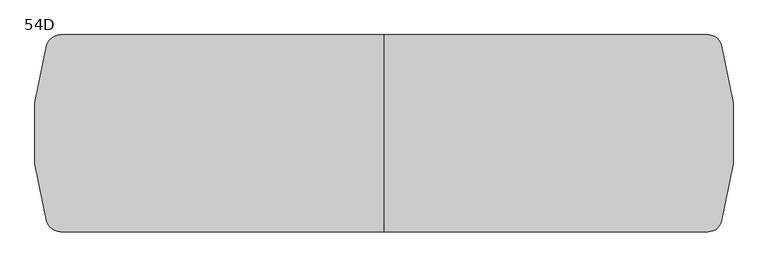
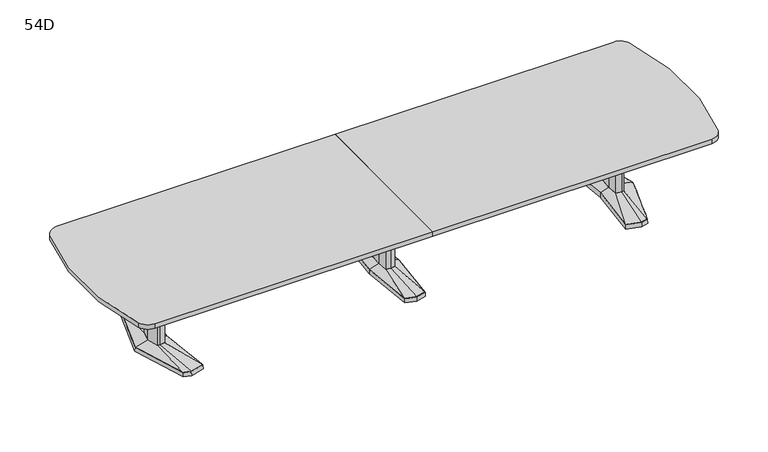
"""IFC4 building model written with IfcOpenShell, lengths in millimetres: furniture geometry, Coalesse_AM_Table_Conference_ETable2_SoftRadiused_16ft_AluminiumBase : 54D."""

import ifcopenshell
import ifcopenshell.guid

model = None  # the IFC model being written
_history = None  # IfcOwnerHistory: only IFC2X3 demands one
_inside = {}  # id of a spatial element -> (the spatial element, [elements in it])
_under = {}  # id of a project, library or spatial element -> (it, [spatial elements below it])
_declared = {}  # id of a project -> (the project, [libraries it declares])
_typed = {}  # id of a type object -> (the type object, [elements of that type])
_made_of = {}  # id of a material, layer set ... -> (it, [elements and type objects made of it])


def new_model(schema):
    """Start an empty IFC model of exactly this schema.

    Asked for "IFC4X3", IfcOpenShell would pick the latest addendum, in which some entities
    have other attributes; the version numbers below select the first issue.
    IFC2X3 requires an IfcOwnerHistory on every rooted entity: one is made here for all.
    """
    global model, _history
    if schema == "IFC4X3":
        model = ifcopenshell.file(schema_version=(4, 3, 0, 0))
    else:
        model = ifcopenshell.file(schema=schema)
    _inside.clear()
    _under.clear()
    _declared.clear()
    _typed.clear()
    _made_of.clear()
    _history = None
    if model.schema == "IFC2X3":
        org = make("IfcOrganization", Name="unknown")
        user = make(
            "IfcPersonAndOrganization",
            ThePerson=make("IfcPerson", FamilyName="unknown"),
            TheOrganization=org,
        )
        app = make(
            "IfcApplication",
            ApplicationDeveloper=org,
            Version="unknown",
            ApplicationFullName="unknown",
            ApplicationIdentifier="unknown",
        )
        _history = make(
            "IfcOwnerHistory",
            OwningUser=user,
            OwningApplication=app,
            ChangeAction="ADDED",
            CreationDate=0,
        )
    return model


def make(cls, **values):
    """One entity of the class cls with the attributes given. An attribute that is None is left unset."""
    return model.create_entity(
        cls, **{name: value for name, value in values.items() if value is not None}
    )


def rooted(cls, **values):
    """An entity with a GlobalId (a new one), such as an element, a storey or a relation."""
    return make(cls, GlobalId=ifcopenshell.guid.new(), OwnerHistory=_history, **values)


def si_unit(unit_type, name, prefix=None):
    """IfcSIUnit, for example si_unit("LENGTHUNIT", "METRE", prefix="MILLI")."""
    return make("IfcSIUnit", UnitType=unit_type, Prefix=prefix, Name=name)


def assignment(units):
    """IfcUnitAssignment: the units of a project."""
    return None if units is None else make("IfcUnitAssignment", Units=units)


def point(xyz):
    """IfcCartesianPoint."""
    return None if xyz is None else make("IfcCartesianPoint", Coordinates=xyz)


def direction(xyz):
    """IfcDirection."""
    return None if xyz is None else make("IfcDirection", DirectionRatios=xyz)


def frame(location, z_axis=None, x_axis=None):
    """IfcAxis2Placement3D, a coordinate frame: its origin and axes. An axis left out is left unset."""
    return make(
        "IfcAxis2Placement3D",
        Location=point(location),
        Axis=direction(z_axis),
        RefDirection=direction(x_axis),
    )


def frame_2d(location, x_axis=None):
    """IfcAxis2Placement2D, a coordinate frame in the plane: its origin and x axis."""
    return make(
        "IfcAxis2Placement2D", Location=point(location), RefDirection=direction(x_axis)
    )


def origin():
    """The frame at (0, 0, 0) with its axes left unset."""
    return frame((0.0, 0.0, 0.0))


def place(relative_to, where):
    """IfcLocalPlacement: puts the frame where relative to a parent placement (None: the world)."""
    return make(
        "IfcLocalPlacement", PlacementRelTo=relative_to, RelativePlacement=where
    )


def context(
    kind, dimensions, precision=None, world=None, true_north=None, identifier=None
):
    """IfcGeometricRepresentationContext, for example the 3D "Model" context."""
    return make(
        "IfcGeometricRepresentationContext",
        ContextIdentifier=identifier,
        ContextType=kind,
        CoordinateSpaceDimension=dimensions,
        Precision=precision,
        WorldCoordinateSystem=world,
        TrueNorth=true_north,
    )


def project(units=None, contexts=None):
    """IfcProject with its units and contexts."""
    return rooted(
        "IfcProject",
        Name="project",
        RepresentationContexts=contexts,
        UnitsInContext=assignment(units),
    )


def spatial(cls, under=None, at=None, **own):
    """A site, building, storey or space (cls), placed at a placement, below another one or the project."""
    s = rooted(cls, ObjectPlacement=at, **own)
    if under is not None:
        _under.setdefault(under.id(), (under, []))[1].append(s)
    return s


def polyline(points):
    """IfcPolyline through the points."""
    return make("IfcPolyline", Points=[point(p) for p in points])


def circle_curve(where, radius):
    """IfcCircle in the frame where."""
    return make("IfcCircle", Position=where, Radius=radius)


def trimmed(basis, trim1, trim2, sense, master):
    """IfcTrimmedCurve: the piece of a basis curve between two trims."""
    return make(
        "IfcTrimmedCurve",
        BasisCurve=basis,
        Trim1=trim1,
        Trim2=trim2,
        SenseAgreement=sense,
        MasterRepresentation=master,
    )


def segment(curve, same_sense, transition):
    """IfcCompositeCurveSegment."""
    return make(
        "IfcCompositeCurveSegment",
        Transition=transition,
        SameSense=same_sense,
        ParentCurve=curve,
    )


def composite_curve(segments, self_intersect=None):
    """IfcCompositeCurve: segments joined end to end."""
    return make("IfcCompositeCurve", Segments=segments, SelfIntersect=self_intersect)


def outline(outer, holes=None, kind="AREA"):
    """IfcArbitraryClosedProfileDef: a profile drawn as a closed curve; with holes, ...WithVoids."""
    if holes is None:
        return make("IfcArbitraryClosedProfileDef", ProfileType=kind, OuterCurve=outer)
    return make(
        "IfcArbitraryProfileDefWithVoids",
        ProfileType=kind,
        OuterCurve=outer,
        InnerCurves=holes,
    )


def extrude(swept, where, along, depth):
    """IfcExtrudedAreaSolid: the profile swept, set in the frame where, extruded along a direction by depth."""
    return make(
        "IfcExtrudedAreaSolid",
        SweptArea=swept,
        Position=where,
        ExtrudedDirection=direction(along),
        Depth=depth,
    )


def faces_of(points, faces, orient=None, outer=None):
    """IfcFace entities. A face is a list of loops; a loop is a list of indices into points, from 0.

    orient and outer hold one flag for each loop. By default every Orientation is true, the
    first loop of a face is its IfcFaceOuterBound and the others are IfcFaceBound.
    """
    made = []
    for i, loops in enumerate(faces):
        bounds = []
        for j, loop in enumerate(loops):
            is_outer = j == 0 if outer is None else outer[i][j]
            bounds.append(
                make(
                    "IfcFaceOuterBound" if is_outer else "IfcFaceBound",
                    Bound=make("IfcPolyLoop", Polygon=[points[k] for k in loop]),
                    Orientation=True if orient is None else orient[i][j],
                )
            )
        made.append(make("IfcFace", Bounds=bounds))
    return made


def faceted_brep(points, faces, orient=None, outer=None, voids=None):
    """IfcFacetedBrep: a solid bounded by flat faces; with voids (closed shells), ...WithVoids."""
    shared = [point(p) for p in points]
    hull = make("IfcClosedShell", CfsFaces=faces_of(shared, faces, orient, outer))
    if voids is None:
        return make("IfcFacetedBrep", Outer=hull)
    return make(
        "IfcFacetedBrepWithVoids",
        Outer=hull,
        Voids=[
            make(cls, CfsFaces=faces_of(shared, fs, o, b)) for cls, fs, o, b in voids
        ],
    )


def shape(context_of_items, identifier, shape_type, items):
    """IfcShapeRepresentation: the items that make up one representation, for example the "Body"."""
    return make(
        "IfcShapeRepresentation",
        ContextOfItems=context_of_items,
        RepresentationIdentifier=identifier,
        RepresentationType=shape_type,
        Items=items,
    )


def source(mapping_origin, context_of_items, identifier, shape_type, items):
    """IfcRepresentationMap: a shape defined once, which mapped items show again and again."""
    return make(
        "IfcRepresentationMap",
        MappingOrigin=mapping_origin,
        MappedRepresentation=shape(context_of_items, identifier, shape_type, items),
    )


def transform(
    local_origin,
    x_axis=None,
    y_axis=None,
    z_axis=None,
    scale=None,
    scale2=None,
    scale3=None,
    uniform=True,
):
    """IfcCartesianTransformationOperator3D, or its non-uniform kind. x_axis, y_axis, z_axis: its Axis1, 2, 3."""
    if uniform:
        return make(
            "IfcCartesianTransformationOperator3D",
            Axis1=direction(x_axis),
            Axis2=direction(y_axis),
            LocalOrigin=point(local_origin),
            Scale=scale,
            Axis3=direction(z_axis),
        )
    return make(
        "IfcCartesianTransformationOperator3DnonUniform",
        Axis1=direction(x_axis),
        Axis2=direction(y_axis),
        LocalOrigin=point(local_origin),
        Scale=scale,
        Axis3=direction(z_axis),
        Scale2=scale2,
        Scale3=scale3,
    )


def mapped(mapping_source, mapping_target):
    """IfcMappedItem: shows the shape of a source again, moved by a transform."""
    return make(
        "IfcMappedItem", MappingSource=mapping_source, MappingTarget=mapping_target
    )


def made_of(thing, what):
    """Note that an element or type object is made of a material, layer set ...; save() writes the relation."""
    if what is not None:
        _made_of.setdefault(what.id(), (what, []))[1].append(thing)
    return thing


def element(
    cls,
    number,
    at=None,
    inside=None,
    cuts=None,
    type_object=None,
    material=None,
    context=None,
    identifier="Body",
    shape_type=None,
    held_by="IfcProductDefinitionShape",
    body=None,
    shapes=None,
    **own,
):
    """One element of the class cls, such as IfcWall. Its Tag is "e" and its number.

    at: its placement. inside: the storey or other place that contains it. cuts: it is an
    opening in that element (IfcRelVoidsElement). A single representation is given by context,
    identifier, shape_type and body (its items); several are given by shapes. held_by: the class
    of the entity that holds the representations. save() writes the other relations.
    """
    e = rooted(cls, Tag="e%d" % number, ObjectPlacement=at, **own)
    if body is not None:
        shapes = [shape(context, identifier, shape_type, body)]
    if shapes is not None:
        e.Representation = make(held_by, Representations=shapes)
    if inside is not None:
        _inside.setdefault(inside.id(), (inside, []))[1].append(e)
    if cuts is not None:
        rooted(
            "IfcRelVoidsElement", RelatingBuildingElement=cuts, RelatedOpeningElement=e
        )
    if type_object is not None:
        _typed.setdefault(type_object.id(), (type_object, []))[1].append(e)
    return made_of(e, material)


def aggregate(whole, parts):
    """IfcRelAggregates: a whole, such as a stair, and the parts it consists of."""
    return rooted("IfcRelAggregates", RelatingObject=whole, RelatedObjects=parts)


def save(model, path):
    """Write the relations noted so far, then the file.

    IfcRelAggregates (storeys below a building ...), IfcRelContainedInSpatialStructure (elements
    in a storey), IfcRelDefinesByType, IfcRelAssociatesMaterial and IfcRelDeclares: one each for
    every whole, place, type object, material and project.
    """
    for whole, parts in _under.values():
        aggregate(whole, parts)
    for where, things in _inside.values():
        rooted(
            "IfcRelContainedInSpatialStructure",
            RelatedElements=things,
            RelatingStructure=where,
        )
    for kind, things in _typed.values():
        rooted("IfcRelDefinesByType", RelatedObjects=things, RelatingType=kind)
    for what, things in _made_of.values():
        rooted("IfcRelAssociatesMaterial", RelatedObjects=things, RelatingMaterial=what)
    for by, libraries in _declared.values():
        rooted("IfcRelDeclares", RelatingContext=by, RelatedDefinitions=libraries)
    model.write(path)


def plane_surface(at):
    """IfcPlane: the flat surface through the origin of the frame at, square to its z axis."""
    return make("IfcPlane", Position=at)


def spline_surface(u_degree, v_degree, points, u_multiplicities, v_multiplicities, u_knots, v_knots, weights=None):
    """IfcBSplineSurfaceWithKnots; with weights, IfcRationalBSplineSurfaceWithKnots. points: one row for each step in u."""
    own = dict(
        UDegree=u_degree,
        VDegree=v_degree,
        ControlPointsList=[[point(p) for p in row] for row in points],
        SurfaceForm="UNSPECIFIED",
        UClosed=False,
        VClosed=False,
        SelfIntersect=False,
        UMultiplicities=u_multiplicities,
        VMultiplicities=v_multiplicities,
        UKnots=u_knots,
        VKnots=v_knots,
        KnotSpec="UNSPECIFIED",
    )
    if weights is None:
        return make("IfcBSplineSurfaceWithKnots", **own)
    return make("IfcRationalBSplineSurfaceWithKnots", WeightsData=weights, **own)


def advanced_brep(points, edges, surfaces, faces):
    """IfcAdvancedBrep: a solid bounded by faces that lie on surfaces and meet in shared edges.

    An edge is (start, end): straight between two places in points (the first is 0);
    or (start, end, curve); or (start, end, curve, False) where it runs against its curve.
    A face is (place in surfaces, loops), or (place, loops, False) where it looks against
    its surface's normal. A loop lists edges by number (the first is 1), with a minus sign
    where the edge is run from its end to its start. The first loop is the outer one.
    """
    corners = [point(p) for p in points]
    vertices = [make("IfcVertexPoint", VertexGeometry=c) for c in corners]
    made = []
    for start, end, *more in edges:
        made.append(
            make(
                "IfcEdgeCurve",
                EdgeStart=vertices[start],
                EdgeEnd=vertices[end],
                EdgeGeometry=more[0] if more else make("IfcPolyline", Points=[corners[start], corners[end]]),
                SameSense=more[1] if len(more) > 1 else True,
            )
        )
    hull = []
    for where, loops, *sense in faces:
        bounds = []
        for j, loop in enumerate(loops):
            ring = [make("IfcOrientedEdge", EdgeElement=made[abs(k) - 1], Orientation=k > 0) for k in loop]
            bounds.append(
                make(
                    "IfcFaceOuterBound" if j == 0 else "IfcFaceBound",
                    Bound=make("IfcEdgeLoop", EdgeList=ring),
                    Orientation=True,
                )
            )
        hull.append(make("IfcAdvancedFace", Bounds=bounds, FaceSurface=surfaces[where], SameSense=sense[0] if sense else True))
    return make("IfcAdvancedBrep", Outer=make("IfcClosedShell", CfsFaces=hull))


def furniture_54d_b6bab012(model_context):
    return source(origin(), model_context, "Body", "SolidModel", [
        faceted_brep([(-81.2333791, -433.8053819, 38.1), (0.0, -455.556576, 38.1), (81.2333791, -433.8053819, 38.1), (119.0564774, 0.0, 38.1), (81.2333791, 433.8053819, 38.1), (0.0, 455.556576, 38.1), (-81.2333791, 433.8053819, 38.1), (-119.0564774, 0.0, 38.1), (-82.7182795, -435.0512063, 3.175), (-120.65, 0.0, 3.175), (-82.7182795, 435.0512063, 3.175), (0.0, 457.2, 3.175), (82.7182795, 435.0512063, 3.175), (120.65, 0.0, 3.175), (82.7182795, -435.0512063, 3.175), (0.0, -457.2, 3.175), (0.0, 429.2617927, 3.175), (-77.9676806, 408.3850278, 3.175), (-74.7019821, 382.9646737, 3.175), (0.0, 402.9670094, 3.175), (74.7019821, 382.9646737, 3.175), (77.9676806, 408.3850278, 3.175), (0.0, -429.2617927, 3.175), (77.9676806, -408.3850278, 3.175), (74.7019821, -382.9646737, 3.175), (0.0, -402.9670094, 3.175), (-74.7019821, -382.9646737, 3.175), (-77.9676806, -408.3850278, 3.175), (-71.8574262, 114.6326257, 3.175), (-82.5426076, 0.0, 3.175), (-71.8574262, -114.6326257, 3.175), (0.0, -133.8761372, 3.175), (71.8574262, -114.6326257, 3.175), (82.5426076, 0.0, 3.175), (71.8574262, 114.6326257, 3.175), (0.0, 133.8761372, 3.175), (0.0, 429.2617927, 0.0), (77.9676806, 408.3850278, 0.0), (74.7019821, 382.9646737, 0.0), (0.0, 402.9670094, 0.0), (-74.7019821, 382.9646737, 0.0), (-77.9676806, 408.3850278, 0.0), (0.0, -429.2617927, 0.0), (-77.9676806, -408.3850278, 0.0), (-74.7019821, -382.9646737, 0.0), (0.0, -402.9670094, 0.0), (74.7019821, -382.9646737, 0.0), (77.9676806, -408.3850278, 0.0), (-71.8574262, 114.6326257, 0.0), (0.0, 133.8761372, 0.0), (71.8574262, 114.6326257, 0.0), (82.5426076, 0.0, 0.0), (71.8574262, -114.6326257, 0.0), (0.0, -133.8761372, 0.0), (-71.8574262, -114.6326257, 0.0), (-82.5426076, 0.0, 0.0)], [[[0, 1, 2, 3, 4, 5, 6, 7]], [[8, 9, 10, 11, 12, 13, 14, 15], [16, 17, 18, 19, 20, 21], [22, 23, 24, 25, 26, 27], [28, 29, 30, 31, 32, 33, 34, 35]], [[1, 0, 8, 15]], [[2, 1, 15, 14]], [[3, 2, 14, 13]], [[4, 3, 13, 12]], [[5, 4, 12, 11]], [[6, 5, 11, 10]], [[7, 6, 10, 9]], [[0, 7, 9, 8]], [[36, 37, 38, 39, 40, 41]], [[42, 43, 44, 45, 46, 47]], [[48, 49, 50, 51, 52, 53, 54, 55]], [[36, 41, 17, 16]], [[41, 40, 18, 17]], [[40, 39, 19, 18]], [[39, 38, 20, 19]], [[38, 37, 21, 20]], [[37, 36, 16, 21]], [[42, 47, 23, 22]], [[47, 46, 24, 23]], [[46, 45, 25, 24]], [[45, 44, 26, 25]], [[44, 43, 27, 26]], [[43, 42, 22, 27]], [[48, 55, 29, 28]], [[55, 54, 30, 29]], [[54, 53, 31, 30]], [[53, 52, 32, 31]], [[52, 51, 33, 32]], [[51, 50, 34, 33]], [[50, 49, 35, 34]], [[49, 48, 28, 35]]]),
        faceted_brep([(-36.3832834, 84.6900825, 698.5), (-44.2774487, 0.0, 698.5), (-36.3832834, -84.6900825, 698.5), (0.0, -94.4335728, 698.5), (36.3832834, -84.6900825, 698.5), (44.2774487, 0.0, 698.5), (36.3832834, 84.6900825, 698.5), (0.0, 94.4335728, 698.5), (-36.3832834, 84.6900825, 63.5), (0.0, 94.4335728, 63.5), (36.3832834, 84.6900825, 63.5), (44.2774487, 0.0, 63.5), (36.3832834, -84.6900825, 63.5), (0.0, -94.4335728, 63.5), (-36.3832834, -84.6900825, 63.5), (-44.2774487, 0.0, 63.5)], [[[0, 1, 2, 3, 4, 5, 6, 7]], [[8, 9, 10, 11, 12, 13, 14, 15]], [[1, 0, 8, 15]], [[2, 1, 15, 14]], [[3, 2, 14, 13]], [[4, 3, 13, 12]], [[5, 4, 12, 11]], [[6, 5, 11, 10]], [[7, 6, 10, 9]], [[0, 7, 9, 8]]]),
        advanced_brep(
        [(-36.3832834, 84.6900825, 63.5), (-44.2774487, 0.0, 63.5), (-36.3832834, -84.6900825, 63.5), (0.0, -94.4335728, 63.5), (36.3832834, -84.6900825, 63.5), (44.2774487, 0.0, 63.5), (36.3832834, 84.6900825, 63.5), (0.0, 94.4335728, 63.5), (-81.2333791, 433.8053819, 38.1), (0.0, 455.556576, 38.1), (81.2333791, 433.8053819, 38.1), (119.0564774, 0.0, 38.1), (81.2333791, -433.8053819, 38.1), (0.0, -455.556576, 38.1), (-81.2333791, -433.8053819, 38.1), (-119.0564774, 0.0, 38.1)],
        [
            (0, 1),
            (1, 2),
            (2, 3),
            (3, 4),
            (4, 5),
            (5, 6),
            (6, 7),
            (7, 0),
            (8, 9),
            (9, 10),
            (10, 11),
            (11, 12),
            (12, 13),
            (13, 14),
            (14, 15),
            (15, 8),
            (15, 1),
            (0, 8),
            (14, 2),
            (13, 3),
            (12, 4),
            (11, 5),
            (10, 6),
            (9, 7),
        ],
        [
            plane_surface(frame((0.0, 0.0, 63.5), z_axis=(0.0, 0.0, 1.0000000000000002), x_axis=(-0.9659615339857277, -0.25868574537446, 0.0))),
            plane_surface(frame((0.0, 0.0, 38.1), z_axis=(0.0, 0.0, -1.0000000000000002), x_axis=(-0.9659615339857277, -0.25868574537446, 0.0))),
            spline_surface(1, 1, [[(-81.2333791, 433.8053819, 38.1), (-36.3832834, 84.6900825, 63.5)], [(-119.0564774, 0.0, 38.1), (-44.2774487, 0.0, 63.5)]], [2, 2], [2, 2], [0.0, 1.0], [0.0, 1.0]),
            spline_surface(1, 1, [[(-119.0564774, 0.0, 38.1), (-44.2774487, 0.0, 63.5)], [(-81.2333791, -433.8053819, 38.1), (-36.3832834, -84.6900825, 63.5)]], [2, 2], [2, 2], [0.0, 1.0], [0.0, 1.0]),
            spline_surface(1, 1, [[(-81.2333791, -433.8053819, 38.1), (-36.3832834, -84.6900825, 63.5)], [(0.0, -455.556576, 38.1), (0.0, -94.4335728, 63.5)]], [2, 2], [2, 2], [0.0, 1.0], [0.0, 1.0]),
            spline_surface(1, 1, [[(0.0, -455.556576, 38.1), (0.0, -94.4335728, 63.5)], [(81.2333791, -433.8053819, 38.1), (36.3832834, -84.6900825, 63.5)]], [2, 2], [2, 2], [0.0, 1.0], [0.0, 1.0]),
            spline_surface(1, 1, [[(81.2333791, -433.8053819, 38.1), (36.3832834, -84.6900825, 63.5)], [(119.0564774, 0.0, 38.1), (44.2774487, 0.0, 63.5)]], [2, 2], [2, 2], [0.0, 1.0], [0.0, 1.0]),
            spline_surface(1, 1, [[(119.0564774, 0.0, 38.1), (44.2774487, 0.0, 63.5)], [(81.2333791, 433.8053819, 38.1), (36.3832834, 84.6900825, 63.5)]], [2, 2], [2, 2], [0.0, 1.0], [0.0, 1.0]),
            spline_surface(1, 1, [[(81.2333791, 433.8053819, 38.1), (36.3832834, 84.6900825, 63.5)], [(0.0, 455.556576, 38.1), (0.0, 94.4335728, 63.5)]], [2, 2], [2, 2], [0.0, 1.0], [0.0, 1.0]),
            spline_surface(1, 1, [[(0.0, 455.556576, 38.1), (0.0, 94.4335728, 63.5)], [(-81.2333791, 433.8053819, 38.1), (-36.3832834, 84.6900825, 63.5)]], [2, 2], [2, 2], [0.0, 1.0], [0.0, 1.0]),
        ],
        [
            (0, [[1, 2, 3, 4, 5, 6, 7, 8]]),
            (1, [[9, 10, 11, 12, 13, 14, 15, 16]]),
            (2, [[-16, 17, -1, 18]]),
            (3, [[-15, 19, -2, -17]]),
            (4, [[-14, 20, -3, -19]]),
            (5, [[-13, 21, -4, -20]]),
            (6, [[-12, 22, -5, -21]]),
            (7, [[-11, 23, -6, -22]]),
            (8, [[-10, 24, -7, -23]]),
            (9, [[-9, -18, -8, -24]]),
        ],
    ),
        faceted_brep([(1820.2306835, 455.5848221, 38.1), (1710.6531277, 426.2263816, 38.1), (1751.8163717, 0.0, 38.1), (1710.6531277, -426.2263816, 38.1), (1820.2306835, -455.5848221, 38.1), (1876.3570396, -440.5478297, 38.1), (2013.6684269, 0.0, 38.1), (1876.3570396, 440.5478297, 38.1), (1820.2306754, 457.2283104, 3.175), (1877.6124472, 441.8549756, 3.175), (2015.33125, 0.0, 3.175), (1877.6124472, -441.8549756, 3.175), (1820.2306754, -457.2283104, 3.175), (1708.94375, -427.4118891, 3.175), (1750.2214856, 0.0, 3.175), (1708.94375, 427.4118891, 3.175), (1823.820115, 428.3273875, 3.175), (1718.7718228, 402.1057253, 3.175), (1726.890518, 377.985069, 3.175), (1827.4095466, 401.0699529, 3.175), (1877.9691725, 387.524361, 3.175), (1877.1631061, 414.0360954, 3.175), (1823.820115, -428.3273875, 3.175), (1877.1631061, -414.0360954, 3.175), (1877.9691725, -387.524361, 3.175), (1827.4095466, -401.0699529, 3.175), (1726.890518, -377.985069, 3.175), (1718.7718228, -402.1057253, 3.175), (1950.4153621, 0.0, 3.175), (1918.1459611, 120.4193755, 3.175), (1869.4987222, 133.471665, 3.175), (1789.6180526, 119.4176561, 3.175), (1778.4868466, 0.0, 3.175), (1789.6180526, -119.4176561, 3.175), (1869.4987222, -133.471665, 3.175), (1918.1459611, -120.4193755, 3.175), (1823.820115, 428.3273875, 0.0), (1877.1631061, 414.0360954, 0.0), (1877.9691725, 387.524361, 0.0), (1827.4095466, 401.0699529, 0.0), (1726.890518, 377.985069, 0.0), (1718.7718228, 402.1057253, 0.0), (1823.820115, -428.3273875, 0.0), (1718.7718228, -402.1057253, 0.0), (1726.890518, -377.985069, 0.0), (1827.4095466, -401.0699529, 0.0), (1877.9691725, -387.524361, 0.0), (1877.1631061, -414.0360954, 0.0), (1950.4153621, 0.0, 0.0), (1918.1459611, -120.4193755, 0.0), (1869.4987222, -133.471665, 0.0), (1789.6180526, -119.4176561, 0.0), (1778.4868466, 0.0, 0.0), (1789.6180526, 119.4176561, 0.0), (1869.4987222, 133.471665, 0.0), (1918.1459611, 120.4193755, 0.0)], [[[0, 1, 2, 3, 4, 5, 6, 7]], [[8, 9, 10, 11, 12, 13, 14, 15], [16, 17, 18, 19, 20, 21], [22, 23, 24, 25, 26, 27], [28, 29, 30, 31, 32, 33, 34, 35]], [[7, 9, 8, 0]], [[6, 10, 9, 7]], [[5, 11, 10, 6]], [[4, 12, 11, 5]], [[3, 13, 12, 4]], [[2, 14, 13, 3]], [[1, 15, 14, 2]], [[0, 8, 15, 1]], [[36, 37, 38, 39, 40, 41]], [[42, 43, 44, 45, 46, 47]], [[48, 49, 50, 51, 52, 53, 54, 55]], [[36, 16, 21, 37]], [[37, 21, 20, 38]], [[38, 20, 19, 39]], [[39, 19, 18, 40]], [[40, 18, 17, 41]], [[41, 17, 16, 36]], [[42, 22, 27, 43]], [[43, 27, 26, 44]], [[44, 26, 25, 45]], [[45, 25, 24, 46]], [[46, 24, 23, 47]], [[47, 23, 22, 42]], [[48, 28, 35, 49]], [[49, 35, 34, 50]], [[50, 34, 33, 51]], [[51, 33, 32, 52]], [[52, 32, 31, 53]], [[53, 31, 30, 54]], [[54, 30, 29, 55]], [[55, 29, 28, 48]]]),
        faceted_brep([(1910.9710836, 0.0, 698.5), (1887.0358546, 89.3188359, 698.5), (1870.1824984, 93.8406728, 698.5), (1867.7826511, 94.4845635, 698.5), (1824.855146, 86.9320037, 698.5), (1816.7520056, 0.0, 698.5), (1824.855146, -86.9320037, 698.5), (1867.7826511, -94.4845635, 698.5), (1870.1824984, -93.8406728, 698.5), (1887.0358546, -89.3188359, 698.5), (1910.9710836, 0.0, 63.5), (1887.0358546, -89.3188359, 63.5), (1870.1824984, -93.8406728, 63.5), (1867.7826511, -94.4845635, 63.5), (1824.855146, -86.9320037, 63.5), (1816.7520056, 0.0, 63.5), (1824.855146, 86.9320037, 63.5), (1867.7826511, 94.4845635, 63.5), (1870.1824984, 93.8406728, 63.5), (1887.0358546, 89.3188359, 63.5)], [[[0, 1, 2, 3, 4, 5, 6, 7, 8, 9]], [[10, 11, 12, 13, 14, 15, 16, 17, 18, 19]], [[9, 11, 10, 0]], [[8, 12, 11, 9]], [[7, 13, 12, 8]], [[6, 14, 13, 7]], [[5, 15, 14, 6]], [[4, 16, 15, 5]], [[3, 17, 16, 4]], [[2, 18, 17, 3]], [[1, 19, 18, 2]], [[0, 10, 19, 1]]]),
        advanced_brep(
        [(1867.7826511, 94.4845635, 63.5), (1824.855146, 86.9320037, 63.5), (1816.7520056, 0.0, 63.5), (1824.855146, -86.9320037, 63.5), (1867.7826511, -94.4845635, 63.5), (1887.0358546, -89.3188359, 63.5), (1910.9710836, 0.0, 63.5), (1887.0358546, 89.3188359, 63.5), (1820.2306835, 455.5848221, 38.1), (1876.3570396, 440.5478297, 38.1), (2013.6684269, 0.0, 38.1), (1876.3570396, -440.5478297, 38.1), (1820.2306835, -455.5848221, 38.1), (1710.6531277, -426.2263816, 38.1), (1751.8163717, 0.0, 38.1), (1710.6531277, 426.2263816, 38.1)],
        [
            (0, 1),
            (1, 2),
            (2, 3),
            (3, 4),
            (4, 5),
            (5, 6),
            (6, 7),
            (7, 0),
            (8, 9),
            (9, 10),
            (10, 11),
            (11, 12),
            (12, 13),
            (13, 14),
            (14, 15),
            (15, 8),
            (8, 0),
            (7, 9),
            (6, 10),
            (5, 11),
            (4, 12),
            (3, 13),
            (2, 14),
            (1, 15),
        ],
        [
            plane_surface(frame((1860.8837991, 0.0, 63.5), z_axis=(0.0, 0.0, 1.0), x_axis=(-0.25884244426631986, -0.9659195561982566, 0.0))),
            plane_surface(frame((1822.4958125, 0.0, 38.1), z_axis=(0.0, 0.0, -1.0), x_axis=(-0.25884244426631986, -0.9659195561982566, 0.0))),
            spline_surface(1, 1, [[(1820.2306835, 455.5848221, 38.1), (1876.3570396, 440.5478297, 38.1)], [(1867.7826511, 94.4845635, 63.5), (1887.0358546, 89.3188359, 63.5)]], [2, 2], [2, 2], [0.0, 1.0], [0.0, 1.0]),
            spline_surface(1, 1, [[(1876.3570396, 440.5478297, 38.1), (2013.6684269, 0.0, 38.1)], [(1887.0358546, 89.3188359, 63.5), (1910.9710836, 0.0, 63.5)]], [2, 2], [2, 2], [0.0, 1.0], [0.0, 1.0]),
            spline_surface(1, 1, [[(2013.6684269, 0.0, 38.1), (1876.3570396, -440.5478297, 38.1)], [(1910.9710836, 0.0, 63.5), (1887.0358546, -89.3188359, 63.5)]], [2, 2], [2, 2], [0.0, 1.0], [0.0, 1.0]),
            spline_surface(1, 1, [[(1876.3570396, -440.5478297, 38.1), (1820.2306835, -455.5848221, 38.1)], [(1887.0358546, -89.3188359, 63.5), (1867.7826511, -94.4845635, 63.5)]], [2, 2], [2, 2], [0.0, 1.0], [0.0, 1.0]),
            spline_surface(1, 1, [[(1820.2306835, -455.5848221, 38.1), (1710.6531277, -426.2263816, 38.1)], [(1867.7826511, -94.4845635, 63.5), (1824.855146, -86.9320037, 63.5)]], [2, 2], [2, 2], [0.0, 1.0], [0.0, 1.0]),
            spline_surface(1, 1, [[(1710.6531277, -426.2263816, 38.1), (1751.8163717, 0.0, 38.1)], [(1824.855146, -86.9320037, 63.5), (1816.7520056, 0.0, 63.5)]], [2, 2], [2, 2], [0.0, 1.0], [0.0, 1.0]),
            spline_surface(1, 1, [[(1751.8163717, 0.0, 38.1), (1710.6531277, 426.2263816, 38.1)], [(1816.7520056, 0.0, 63.5), (1824.855146, 86.9320037, 63.5)]], [2, 2], [2, 2], [0.0, 1.0], [0.0, 1.0]),
            spline_surface(1, 1, [[(1710.6531277, 426.2263816, 38.1), (1820.2306835, 455.5848221, 38.1)], [(1824.855146, 86.9320037, 63.5), (1867.7826511, 94.4845635, 63.5)]], [2, 2], [2, 2], [0.0, 1.0], [0.0, 1.0]),
        ],
        [
            (0, [[1, 2, 3, 4, 5, 6, 7, 8]]),
            (1, [[9, 10, 11, 12, 13, 14, 15, 16]]),
            (2, [[17, -8, 18, -9]]),
            (3, [[-18, -7, 19, -10]]),
            (4, [[-19, -6, 20, -11]]),
            (5, [[-20, -5, 21, -12]]),
            (6, [[-21, -4, 22, -13]]),
            (7, [[-22, -3, 23, -14]]),
            (8, [[-23, -2, 24, -15]]),
            (9, [[-24, -1, -17, -16]]),
        ],
    ),
        faceted_brep([(-1820.2306835, 455.5848221, 38.1), (-1876.3570396, 440.5478297, 38.1), (-2013.6684269, 0.0, 38.1), (-1876.3570396, -440.5478297, 38.1), (-1820.2306835, -455.5848221, 38.1), (-1710.6531277, -426.2263816, 38.1), (-1751.8163717, 0.0, 38.1), (-1710.6531277, 426.2263816, 38.1), (-1820.2306754, 457.2283104, 3.175), (-1708.94375, 427.4118891, 3.175), (-1750.2214856, 0.0, 3.175), (-1708.94375, -427.4118891, 3.175), (-1820.2306754, -457.2283104, 3.175), (-1877.6124472, -441.8549756, 3.175), (-2015.33125, 0.0, 3.175), (-1877.6124472, 441.8549756, 3.175), (-1823.820115, 428.3273875, 3.175), (-1877.1631061, 414.0360954, 3.175), (-1877.9691725, 387.524361, 3.175), (-1827.4095466, 401.0699529, 3.175), (-1726.890518, 377.985069, 3.175), (-1718.7718228, 402.1057253, 3.175), (-1823.820115, -428.3273875, 3.175), (-1718.7718228, -402.1057253, 3.175), (-1726.890518, -377.985069, 3.175), (-1827.4095466, -401.0699529, 3.175), (-1877.9691725, -387.524361, 3.175), (-1877.1631061, -414.0360954, 3.175), (-1950.4153621, 0.0, 3.175), (-1918.1459611, -120.4193755, 3.175), (-1869.4987222, -133.471665, 3.175), (-1789.6180526, -119.4176561, 3.175), (-1778.4868466, 0.0, 3.175), (-1789.6180526, 119.4176561, 3.175), (-1869.4987222, 133.471665, 3.175), (-1918.1459611, 120.4193755, 3.175), (-1823.820115, 428.3273875, 0.0), (-1718.7718228, 402.1057253, 0.0), (-1726.890518, 377.985069, 0.0), (-1827.4095466, 401.0699529, 0.0), (-1877.9691725, 387.524361, 0.0), (-1877.1631061, 414.0360954, 0.0), (-1823.820115, -428.3273875, 0.0), (-1877.1631061, -414.0360954, 0.0), (-1877.9691725, -387.524361, 0.0), (-1827.4095466, -401.0699529, 0.0), (-1726.890518, -377.985069, 0.0), (-1718.7718228, -402.1057253, 0.0), (-1950.4153621, 0.0, 0.0), (-1918.1459611, 120.4193755, 0.0), (-1869.4987222, 133.471665, 0.0), (-1789.6180526, 119.4176561, 0.0), (-1778.4868466, 0.0, 0.0), (-1789.6180526, -119.4176561, 0.0), (-1869.4987222, -133.471665, 0.0), (-1918.1459611, -120.4193755, 0.0)], [[[0, 1, 2, 3, 4, 5, 6, 7]], [[8, 9, 10, 11, 12, 13, 14, 15], [16, 17, 18, 19, 20, 21], [22, 23, 24, 25, 26, 27], [28, 29, 30, 31, 32, 33, 34, 35]], [[1, 0, 8, 15]], [[2, 1, 15, 14]], [[3, 2, 14, 13]], [[4, 3, 13, 12]], [[5, 4, 12, 11]], [[6, 5, 11, 10]], [[7, 6, 10, 9]], [[0, 7, 9, 8]], [[36, 37, 38, 39, 40, 41]], [[42, 43, 44, 45, 46, 47]], [[48, 49, 50, 51, 52, 53, 54, 55]], [[36, 41, 17, 16]], [[41, 40, 18, 17]], [[40, 39, 19, 18]], [[39, 38, 20, 19]], [[38, 37, 21, 20]], [[37, 36, 16, 21]], [[42, 47, 23, 22]], [[47, 46, 24, 23]], [[46, 45, 25, 24]], [[45, 44, 26, 25]], [[44, 43, 27, 26]], [[43, 42, 22, 27]], [[48, 55, 29, 28]], [[55, 54, 30, 29]], [[54, 53, 31, 30]], [[53, 52, 32, 31]], [[52, 51, 33, 32]], [[51, 50, 34, 33]], [[50, 49, 35, 34]], [[49, 48, 28, 35]]]),
        faceted_brep([(-1910.9710836, 0.0, 698.5), (-1887.0358546, -89.3188359, 698.5), (-1870.1824984, -93.8406728, 698.5), (-1867.7826511, -94.4845635, 698.5), (-1824.855146, -86.9320037, 698.5), (-1816.7520056, 0.0, 698.5), (-1824.855146, 86.9320037, 698.5), (-1867.7826511, 94.4845635, 698.5), (-1870.1824984, 93.8406728, 698.5), (-1887.0358546, 89.3188359, 698.5), (-1910.9710836, 0.0, 63.5), (-1887.0358546, 89.3188359, 63.5), (-1870.1824984, 93.8406728, 63.5), (-1867.7826511, 94.4845635, 63.5), (-1824.855146, 86.9320037, 63.5), (-1816.7520056, 0.0, 63.5), (-1824.855146, -86.9320037, 63.5), (-1867.7826511, -94.4845635, 63.5), (-1870.1824984, -93.8406728, 63.5), (-1887.0358546, -89.3188359, 63.5)], [[[0, 1, 2, 3, 4, 5, 6, 7, 8, 9]], [[10, 11, 12, 13, 14, 15, 16, 17, 18, 19]], [[1, 0, 10, 19]], [[2, 1, 19, 18]], [[3, 2, 18, 17]], [[4, 3, 17, 16]], [[5, 4, 16, 15]], [[6, 5, 15, 14]], [[7, 6, 14, 13]], [[8, 7, 13, 12]], [[9, 8, 12, 11]], [[0, 9, 11, 10]]]),
        advanced_brep(
        [(-1867.7826511, 94.4845635, 63.5), (-1887.0358546, 89.3188359, 63.5), (-1910.9710836, 0.0, 63.5), (-1887.0358546, -89.3188359, 63.5), (-1867.7826511, -94.4845635, 63.5), (-1824.855146, -86.9320037, 63.5), (-1816.7520056, 0.0, 63.5), (-1824.855146, 86.9320037, 63.5), (-1820.2306835, 455.5848221, 38.1), (-1710.6531277, 426.2263816, 38.1), (-1751.8163717, 0.0, 38.1), (-1710.6531277, -426.2263816, 38.1), (-1820.2306835, -455.5848221, 38.1), (-1876.3570396, -440.5478297, 38.1), (-2013.6684269, 0.0, 38.1), (-1876.3570396, 440.5478297, 38.1)],
        [
            (0, 1),
            (1, 2),
            (2, 3),
            (3, 4),
            (4, 5),
            (5, 6),
            (6, 7),
            (7, 0),
            (8, 9),
            (9, 10),
            (10, 11),
            (11, 12),
            (12, 13),
            (13, 14),
            (14, 15),
            (15, 8),
            (15, 1),
            (0, 8),
            (14, 2),
            (13, 3),
            (12, 4),
            (11, 5),
            (10, 6),
            (9, 7),
        ],
        [
            plane_surface(frame((-1860.8837991, 0.0, 63.5), z_axis=(0.0, 0.0, 1.0), x_axis=(0.25884244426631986, -0.9659195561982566, 0.0))),
            plane_surface(frame((-1822.4958125, 0.0, 38.1), z_axis=(0.0, 0.0, -1.0), x_axis=(0.25884244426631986, -0.9659195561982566, 0.0))),
            spline_surface(1, 1, [[(-1820.2306835, 455.5848221, 38.1), (-1867.7826511, 94.4845635, 63.5)], [(-1876.3570396, 440.5478297, 38.1), (-1887.0358546, 89.3188359, 63.5)]], [2, 2], [2, 2], [0.0, 1.0], [0.0, 1.0]),
            spline_surface(1, 1, [[(-1876.3570396, 440.5478297, 38.1), (-1887.0358546, 89.3188359, 63.5)], [(-2013.6684269, 0.0, 38.1), (-1910.9710836, 0.0, 63.5)]], [2, 2], [2, 2], [0.0, 1.0], [0.0, 1.0]),
            spline_surface(1, 1, [[(-2013.6684269, 0.0, 38.1), (-1910.9710836, 0.0, 63.5)], [(-1876.3570396, -440.5478297, 38.1), (-1887.0358546, -89.3188359, 63.5)]], [2, 2], [2, 2], [0.0, 1.0], [0.0, 1.0]),
            spline_surface(1, 1, [[(-1876.3570396, -440.5478297, 38.1), (-1887.0358546, -89.3188359, 63.5)], [(-1820.2306835, -455.5848221, 38.1), (-1867.7826511, -94.4845635, 63.5)]], [2, 2], [2, 2], [0.0, 1.0], [0.0, 1.0]),
            spline_surface(1, 1, [[(-1820.2306835, -455.5848221, 38.1), (-1867.7826511, -94.4845635, 63.5)], [(-1710.6531277, -426.2263816, 38.1), (-1824.855146, -86.9320037, 63.5)]], [2, 2], [2, 2], [0.0, 1.0], [0.0, 1.0]),
            spline_surface(1, 1, [[(-1710.6531277, -426.2263816, 38.1), (-1824.855146, -86.9320037, 63.5)], [(-1751.8163717, 0.0, 38.1), (-1816.7520056, 0.0, 63.5)]], [2, 2], [2, 2], [0.0, 1.0], [0.0, 1.0]),
            spline_surface(1, 1, [[(-1751.8163717, 0.0, 38.1), (-1816.7520056, 0.0, 63.5)], [(-1710.6531277, 426.2263816, 38.1), (-1824.855146, 86.9320037, 63.5)]], [2, 2], [2, 2], [0.0, 1.0], [0.0, 1.0]),
            spline_surface(1, 1, [[(-1710.6531277, 426.2263816, 38.1), (-1824.855146, 86.9320037, 63.5)], [(-1820.2306835, 455.5848221, 38.1), (-1867.7826511, 94.4845635, 63.5)]], [2, 2], [2, 2], [0.0, 1.0], [0.0, 1.0]),
        ],
        [
            (0, [[1, 2, 3, 4, 5, 6, 7, 8]]),
            (1, [[9, 10, 11, 12, 13, 14, 15, 16]]),
            (2, [[-16, 17, -1, 18]]),
            (3, [[-15, 19, -2, -17]]),
            (4, [[-14, 20, -3, -19]]),
            (5, [[-13, 21, -4, -20]]),
            (6, [[-12, 22, -5, -21]]),
            (7, [[-11, 23, -6, -22]]),
            (8, [[-10, 24, -7, -23]]),
            (9, [[-9, -18, -8, -24]]),
        ],
    ),
        extrude(outline(composite_curve([segment(trimmed(circle_curve(frame_2d((2254.0765873, 590.8588067)), 94.9411933), [point((2254.0765873, 685.8))], [point((2344.9932067, 618.2083682))], False, "CARTESIAN"), True, "CONTINUOUS"), segment(trimmed(circle_curve(frame_2d((345.905431, 0.0)), 2092.494569), [point((2344.9932067, 618.2083682))], [point((2344.9932067, -618.2083682))], False, "CARTESIAN"), True, "CONTINUOUS"), segment(trimmed(circle_curve(frame_2d((2254.0765873, -590.8588067)), 94.9411933), [point((2344.9932067, -618.2083682))], [point((2254.0765873, -685.8))], False, "CARTESIAN"), True, "CONTINUOUS"), segment(polyline([(2254.0765873, -685.8), (0.0, -685.8), (0.0, 685.8), (2254.0765873, 685.8)]), True, "CONTINUOUS")], self_intersect=False)), frame((0.0, 0.0, 698.5), z_axis=(0.0, 0.0, 1.0), x_axis=(1.0, 0.0, 0.0)), (0.0, 0.0, 1.0), 38.1),
        extrude(outline(composite_curve([segment(polyline([(0.0, 685.8), (0.0, -685.8), (-2249.2540251, -685.8)]), True, "CONTINUOUS"), segment(trimmed(circle_curve(frame_2d((-2249.2540251, -584.2)), 101.6), [point((-2249.2540251, -685.8))], [point((-2344.9932067, -618.2083682))], False, "CARTESIAN"), True, "CONTINUOUS"), segment(trimmed(circle_curve(frame_2d((-345.905431, 0.0)), 2092.494569), [point((-2344.9932067, -618.2083682))], [point((-2344.9932067, 618.2083682))], False, "CARTESIAN"), True, "CONTINUOUS"), segment(trimmed(circle_curve(frame_2d((-2249.2540251, 584.2)), 101.6), [point((-2344.9932067, 618.2083682))], [point((-2249.2540251, 685.8))], False, "CARTESIAN"), True, "CONTINUOUS"), segment(polyline([(-2249.2540251, 685.8), (0.0, 685.8)]), True, "CONTINUOUS")], self_intersect=False)), frame((0.0, 0.0, 698.5), z_axis=(0.0, 0.0, 1.0), x_axis=(1.0, 0.0, 0.0)), (0.0, 0.0, 1.0), 38.1),
        extrude(outline(polyline([(96.8375, 698.5), (103.1875, 698.5), (103.1875, 476.25), (-103.1875, 476.25), (-103.1875, 698.5), (-96.8375, 698.5), (-96.8375, 482.6), (96.8375, 482.6), (96.8375, 698.5)])), frame((-1816.89375, 0.0, 0.0), z_axis=(1.0, 0.0, 0.0), x_axis=(0.0, 1.0, 0.0)), (0.0, 0.0, 1.0), 3633.7875),
    ])


if __name__ == "__main__":
    model = new_model("IFC4")
    model_context = context("Model", 3, world=origin())
    ifc_project = project(units=[si_unit("LENGTHUNIT", "METRE", prefix="MILLI")], contexts=[model_context])
    site = spatial("IfcSite", under=ifc_project)
    building = spatial("IfcBuilding", under=site)
    placement = place(None, origin())
    furniture_54d_shape = furniture_54d_b6bab012(model_context)
    element("IfcFurniture", 1, ObjectType="Coalesse_AM_Table_Conference_ETable2_SoftRadiused_16ft_AluminiumBase : 54D", at=placement, inside=building, context=model_context, shape_type="MappedRepresentation", body=[
        mapped(furniture_54d_shape, transform((0.0, 0.0, 0.0), x_axis=(1.0, 0.0, 0.0), y_axis=(0.0, 1.0, 0.0), z_axis=(0.0, 0.0, 1.0))),
    ])
    save(model, "model.ifc")
